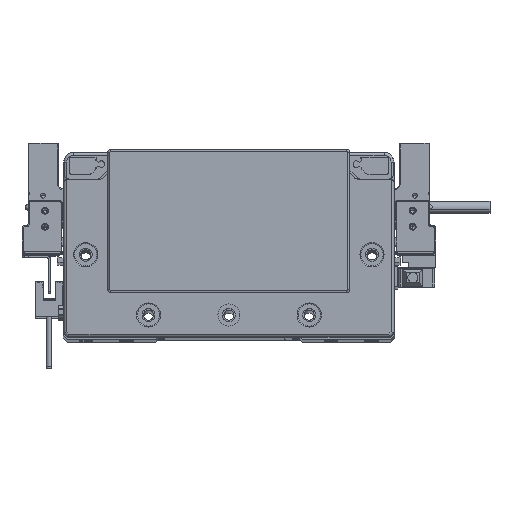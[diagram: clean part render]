
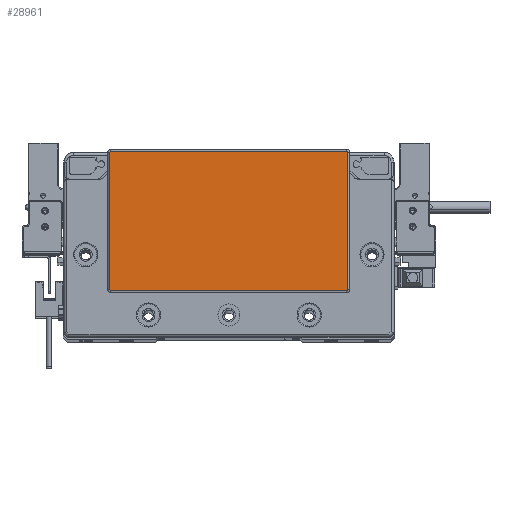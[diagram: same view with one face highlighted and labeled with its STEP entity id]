
A CAD part, top view. The second image highlights one B-rep face of the part: STEP entity #28961.
In plain terms, the highlighted planar face has unit normal (0, 0, 1) as drawn and (0, 0, -1) by its records, which use the part's own axes.
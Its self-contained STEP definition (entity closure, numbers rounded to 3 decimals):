
#2085 = ORIENTED_EDGE ( 'NONE', *, *, #31432, .T. ) ;
#2983 = LINE ( 'NONE', #63598, #62032 ) ;
#4607 = VERTEX_POINT ( 'NONE', #86821 ) ;
#5494 = LINE ( 'NONE', #45387, #31971 ) ;
#7748 = AXIS2_PLACEMENT_3D ( 'NONE', #8995, #77738, #93936 ) ;
#8995 = CARTESIAN_POINT ( 'NONE',  ( 58.75, -23.3, -2. ) ) ;
#12374 = CARTESIAN_POINT ( 'NONE',  ( -59.25, 45.3, -2. ) ) ;
#12835 = ORIENTED_EDGE ( 'NONE', *, *, #27270, .T. ) ;
#15314 = CARTESIAN_POINT ( 'NONE',  ( -58.75, -23.3, -2. ) ) ;
#15609 = ORIENTED_EDGE ( 'NONE', *, *, #82170, .T. ) ;
#18780 = DIRECTION ( 'NONE',  ( -1., 0., 0. ) ) ;
#20996 = PLANE ( 'NONE',  #49377 ) ;
#21164 = DIRECTION ( 'NONE',  ( 0., 1., 0. ) ) ;
#21197 = VERTEX_POINT ( 'NONE', #36730 ) ;
#21639 = VERTEX_POINT ( 'NONE', #12374 ) ;
#22173 = VERTEX_POINT ( 'NONE', #27746 ) ;
#22784 = DIRECTION ( 'NONE',  ( 0., -1., 0. ) ) ;
#23302 = ORIENTED_EDGE ( 'NONE', *, *, #31517, .T. ) ;
#23763 = VERTEX_POINT ( 'NONE', #34243 ) ;
#26933 = AXIS2_PLACEMENT_3D ( 'NONE', #57673, #66266, #18780 ) ;
#27183 = DIRECTION ( 'NONE',  ( 0., 0., -1. ) ) ;
#27270 = EDGE_CURVE ( 'NONE', #4607, #43407, #2983, .T. ) ;
#27746 = CARTESIAN_POINT ( 'NONE',  ( -59.25, -23.3, -2. ) ) ;
#28961 = ADVANCED_FACE ( 'NONE', ( #37158 ), #20996, .T. ) ;
#29840 = LINE ( 'NONE', #83439, #63654 ) ;
#30102 = ORIENTED_EDGE ( 'NONE', *, *, #85261, .T. ) ;
#30878 = EDGE_CURVE ( 'NONE', #73069, #23763, #70565, .T. ) ;
#31432 = EDGE_CURVE ( 'NONE', #22173, #21639, #5494, .T. ) ;
#31449 = LINE ( 'NONE', #78441, #71169 ) ;
#31517 = EDGE_CURVE ( 'NONE', #21197, #4607, #51269, .T. ) ;
#31971 = VECTOR ( 'NONE', #21164, 1000. ) ;
#33266 = DIRECTION ( 'NONE',  ( -1., 0., 0. ) ) ;
#34243 = CARTESIAN_POINT ( 'NONE',  ( 59.25, 45.3, -2. ) ) ;
#36730 = CARTESIAN_POINT ( 'NONE',  ( 59.25, -23.3, -2. ) ) ;
#37158 = FACE_OUTER_BOUND ( 'NONE', #88154, .T. ) ;
#39380 = ORIENTED_EDGE ( 'NONE', *, *, #96294, .T. ) ;
#43323 = AXIS2_PLACEMENT_3D ( 'NONE', #43346, #27183, #65587 ) ;
#43346 = CARTESIAN_POINT ( 'NONE',  ( -58.75, 45.3, -2. ) ) ;
#43407 = VERTEX_POINT ( 'NONE', #67943 ) ;
#45387 = CARTESIAN_POINT ( 'NONE',  ( -59.25, 45.3, -2. ) ) ;
#47110 = CARTESIAN_POINT ( 'NONE',  ( -58.75, 45.8, -2. ) ) ;
#49377 = AXIS2_PLACEMENT_3D ( 'NONE', #67993, #98837, #60376 ) ;
#51269 = CIRCLE ( 'NONE', #7748, 0.5 ) ;
#53295 = CARTESIAN_POINT ( 'NONE',  ( 58.75, 45.8, -2. ) ) ;
#57673 = CARTESIAN_POINT ( 'NONE',  ( 58.75, 45.3, -2. ) ) ;
#60376 = DIRECTION ( 'NONE',  ( -1., 0., 0. ) ) ;
#61217 = VERTEX_POINT ( 'NONE', #47110 ) ;
#62032 = VECTOR ( 'NONE', #33266, 1000. ) ;
#62265 = DIRECTION ( 'NONE',  ( 1., 0., 0. ) ) ;
#63598 = CARTESIAN_POINT ( 'NONE',  ( -58.75, -23.8, -2. ) ) ;
#63654 = VECTOR ( 'NONE', #22784, 1000. ) ;
#65587 = DIRECTION ( 'NONE',  ( -1., 0., 0. ) ) ;
#66266 = DIRECTION ( 'NONE',  ( 0., 0., -1. ) ) ;
#66494 = AXIS2_PLACEMENT_3D ( 'NONE', #15314, #91673, #76446 ) ;
#67943 = CARTESIAN_POINT ( 'NONE',  ( -58.75, -23.8, -2. ) ) ;
#67993 = CARTESIAN_POINT ( 'NONE',  ( 0., 0., -2. ) ) ;
#70565 = CIRCLE ( 'NONE', #26933, 0.5 ) ;
#71169 = VECTOR ( 'NONE', #62265, 1000. ) ;
#71348 = CIRCLE ( 'NONE', #66494, 0.5 ) ;
#73069 = VERTEX_POINT ( 'NONE', #53295 ) ;
#76446 = DIRECTION ( 'NONE',  ( -1., 0., 0. ) ) ;
#76958 = ORIENTED_EDGE ( 'NONE', *, *, #94737, .T. ) ;
#77185 = ORIENTED_EDGE ( 'NONE', *, *, #30878, .T. ) ;
#77738 = DIRECTION ( 'NONE',  ( 0., 0., -1. ) ) ;
#78441 = CARTESIAN_POINT ( 'NONE',  ( 58.75, 45.8, -2. ) ) ;
#80504 = CIRCLE ( 'NONE', #43323, 0.5 ) ;
#82170 = EDGE_CURVE ( 'NONE', #21639, #61217, #80504, .T. ) ;
#83439 = CARTESIAN_POINT ( 'NONE',  ( 59.25, -23.3, -2. ) ) ;
#85261 = EDGE_CURVE ( 'NONE', #43407, #22173, #71348, .T. ) ;
#86821 = CARTESIAN_POINT ( 'NONE',  ( 58.75, -23.8, -2. ) ) ;
#88154 = EDGE_LOOP ( 'NONE', ( #39380, #23302, #12835, #30102, #2085, #15609, #76958, #77185 ) ) ;
#91673 = DIRECTION ( 'NONE',  ( 0., 0., -1. ) ) ;
#93936 = DIRECTION ( 'NONE',  ( -1., 0., 0. ) ) ;
#94737 = EDGE_CURVE ( 'NONE', #61217, #73069, #31449, .T. ) ;
#96294 = EDGE_CURVE ( 'NONE', #23763, #21197, #29840, .T. ) ;
#98837 = DIRECTION ( 'NONE',  ( 0., 0., -1. ) ) ;
